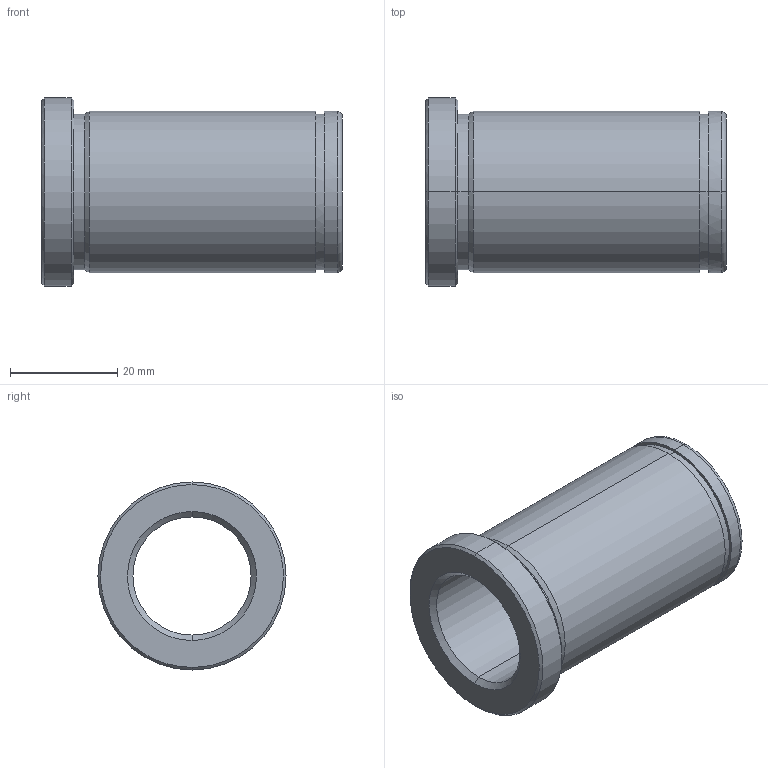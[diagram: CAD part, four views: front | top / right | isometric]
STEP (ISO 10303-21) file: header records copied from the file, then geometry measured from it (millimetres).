
FILE_DESCRIPTION(('CATIA V5 STEP Exchange'),'2;1');
FILE_NAME('C:\Users\Utente\Desktop\IO LAVORO\3D X SITO CF\X SITO\PLASTICA\553\553-22X56.stp','2021-05-25T18:10:43+00:00',('none'),('none'),'CATIA Version 5 Release 20 GA (IN-10)','CATIA V5 STEP AP203','none');
FILE_SCHEMA(('CONFIG_CONTROL_DESIGN'));
Length unit declared in the file: millimetre
Products named in the file (1): 553-22X56
Bounding box: 56 x 35 x 35 mm (x, y, z)
Volume: 19524 mm3; surface area: 10356.7 mm2
Topology: 1 solids, 1 shells, 29 faces, 92 edges, 68 vertices
Faces by surface type: cylinder 12, cone 8, plane 5, torus 4
Entity records: 1222 total; most frequent: CARTESIAN_POINT 368, ORIENTED_EDGE 184, DIRECTION 136, EDGE_CURVE 92, AXIS2_PLACEMENT_3D 88, VERTEX_POINT 68, CIRCLE 58, EDGE_LOOP 34
